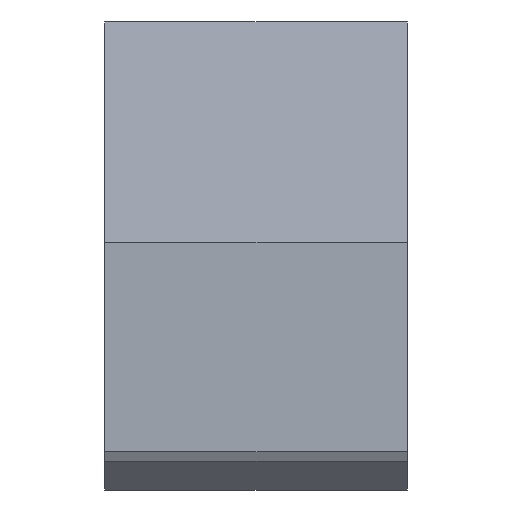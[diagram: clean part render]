
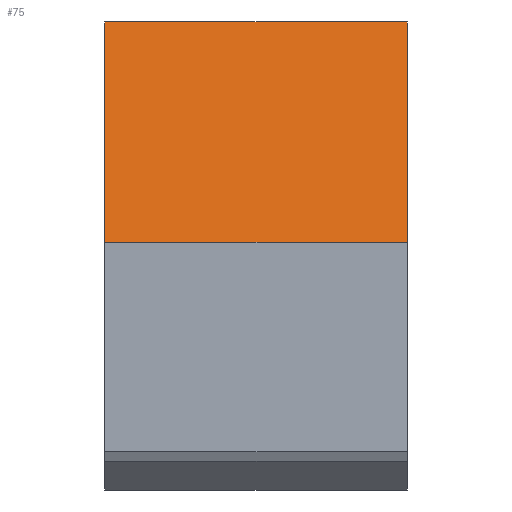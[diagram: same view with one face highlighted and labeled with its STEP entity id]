
A CAD part, left-side view. The second image highlights one B-rep face of the part: STEP entity #75.
In plain terms, the highlighted planar face has unit normal (-0.5, 0, 0.866).
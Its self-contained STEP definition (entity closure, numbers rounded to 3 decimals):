
#75 = ADVANCED_FACE( '', ( #99 ), #100, .T. );
#99 = FACE_OUTER_BOUND( '', #151, .T. );
#100 = PLANE( '', #152 );
#151 = EDGE_LOOP( '', ( #203, #204, #205, #206 ) );
#152 = AXIS2_PLACEMENT_3D( '', #207, #208, #209 );
#203 = ORIENTED_EDGE( '', *, *, #394, .F. );
#204 = ORIENTED_EDGE( '', *, *, #395, .F. );
#205 = ORIENTED_EDGE( '', *, *, #396, .T. );
#206 = ORIENTED_EDGE( '', *, *, #397, .T. );
#207 = CARTESIAN_POINT( '', ( -37., -11., 6. ) );
#208 = DIRECTION( '', ( -0.5, 0., 0.866 ) );
#209 = DIRECTION( '', ( 0.866, 0., 0.5 ) );
#394 = EDGE_CURVE( '', #455, #456, #457, .T. );
#395 = EDGE_CURVE( '', #458, #455, #459, .T. );
#396 = EDGE_CURVE( '', #458, #460, #461, .T. );
#397 = EDGE_CURVE( '', #460, #456, #462, .T. );
#455 = VERTEX_POINT( '', #558 );
#456 = VERTEX_POINT( '', #559 );
#457 = LINE( '', #560, #561 );
#458 = VERTEX_POINT( '', #562 );
#459 = LINE( '', #563, #564 );
#460 = VERTEX_POINT( '', #565 );
#461 = LINE( '', #566, #567 );
#462 = LINE( '', #568, #569 );
#558 = CARTESIAN_POINT( '', ( -37., 11., 6. ) );
#559 = CARTESIAN_POINT( '', ( -9.287, 11., 22. ) );
#560 = CARTESIAN_POINT( '', ( -37., 11., 6. ) );
#561 = VECTOR( '', #708, 1000. );
#562 = CARTESIAN_POINT( '', ( -37., -11., 6. ) );
#563 = CARTESIAN_POINT( '', ( -37., -11., 6. ) );
#564 = VECTOR( '', #709, 1000. );
#565 = CARTESIAN_POINT( '', ( -9.287, -11., 22. ) );
#566 = CARTESIAN_POINT( '', ( -37., -11., 6. ) );
#567 = VECTOR( '', #710, 1000. );
#568 = CARTESIAN_POINT( '', ( -9.287, -11., 22. ) );
#569 = VECTOR( '', #711, 1000. );
#708 = DIRECTION( '', ( 0.866, 0., 0.5 ) );
#709 = DIRECTION( '', ( 0., 1., 0. ) );
#710 = DIRECTION( '', ( 0.866, 0., 0.5 ) );
#711 = DIRECTION( '', ( 0., 1., 0. ) );
